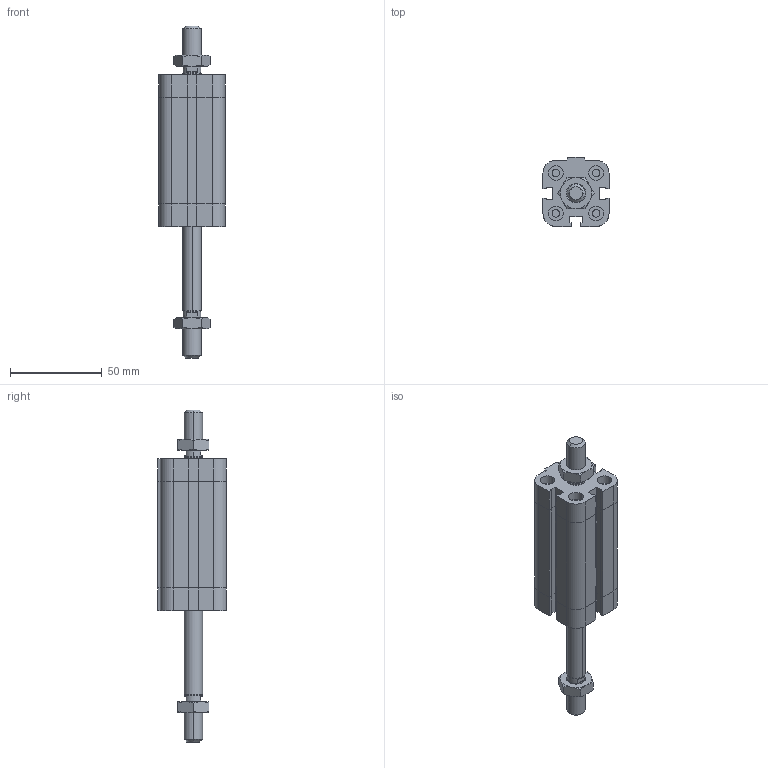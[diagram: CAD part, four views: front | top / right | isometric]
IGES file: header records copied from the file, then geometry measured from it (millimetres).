
Global section: file name: No Iges File Name specified; native system: Autodesk Inventor 2009; preprocessor: AutoDesk Inventor Iges Exporter R2009; author: maffial1; date: 20090420.200847; units: millimetre
Bounding box: 36 x 37.5 x 181 mm (x, y, z)
Volume: 103048.7 mm3; surface area: 29582.6 mm2
Topology: 4 solids, 4 shells, 260 faces, 574 edges, 342 vertices
Faces by surface type: plane 129, bspline 51, cone 38, cylinder 22, revolution 20
